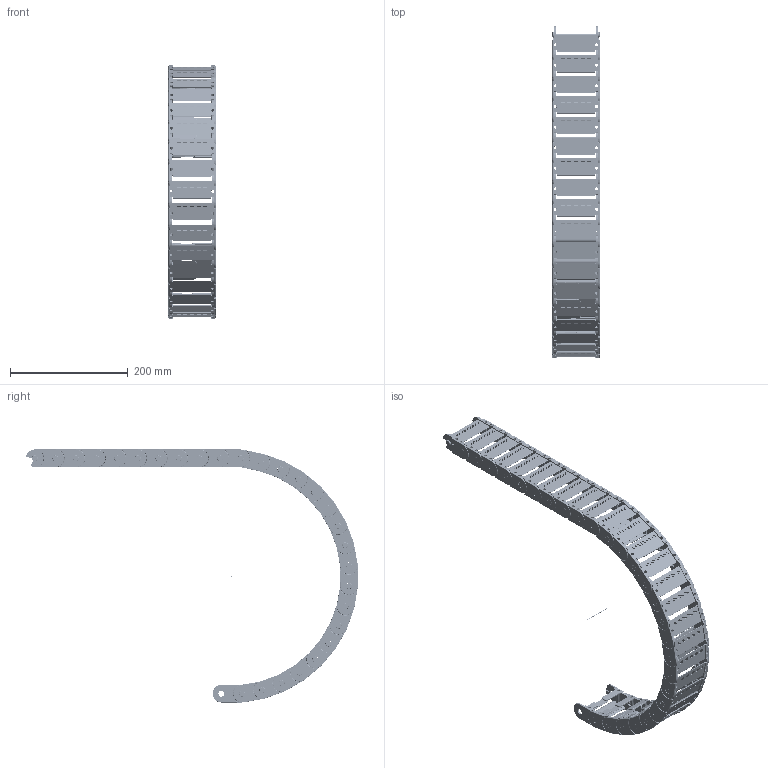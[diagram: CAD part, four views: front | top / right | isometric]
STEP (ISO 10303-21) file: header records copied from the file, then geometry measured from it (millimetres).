
FILE_DESCRIPTION((''),'2;1');
FILE_NAME('C:\Uebbing\PARAMETERKETTEN\KOLIBRI\Kol_30_080_4\Kol 30_080_4_R200.stp','2012-03-05T11:34:10',('Uebbing'),(''),'Autodesk Inventor 10','Autodesk Inventor 10','');
FILE_SCHEMA(('AUTOMOTIVE_DESIGN { 1 0 10303 214 1 1 1 1 }'));
Length unit declared in the file: millimetre
Products named in the file (3): KOLIBRI 30_080_4_PARAMETRISCH; Achse; Kol 30_080_4_Lasche
Assembly tree (29 placements, depth 2):
  KOLIBRI 30_080_4_PARAMETRISCH
    Achse
    Kol 30_080_4_Lasche  x28
Bounding box: 80 x 563.76 x 430 mm (x, y, z)
Volume: 559903.5 mm3; surface area: 451359.1 mm2
Topology: 29 solids, 29 shells, 20499 faces, 54380 edges, 35535 vertices
Faces by surface type: plane 8570, bspline 7812, cylinder 3389, torus 672, sphere 56
Full cylindrical faces by diameter (mm): 1 x1, 1.166 x28, 2.048 x28, 5.1 x28, 10 x28, 10.1 x28
Entity records: 25482 total; most frequent: CARTESIAN_POINT 7944, ORIENTED_EDGE 3850, DIRECTION 3155, EDGE_CURVE 1925, VERTEX_POINT 1266, VECTOR 1259, LINE 1259, AXIS2_PLACEMENT_3D 948
